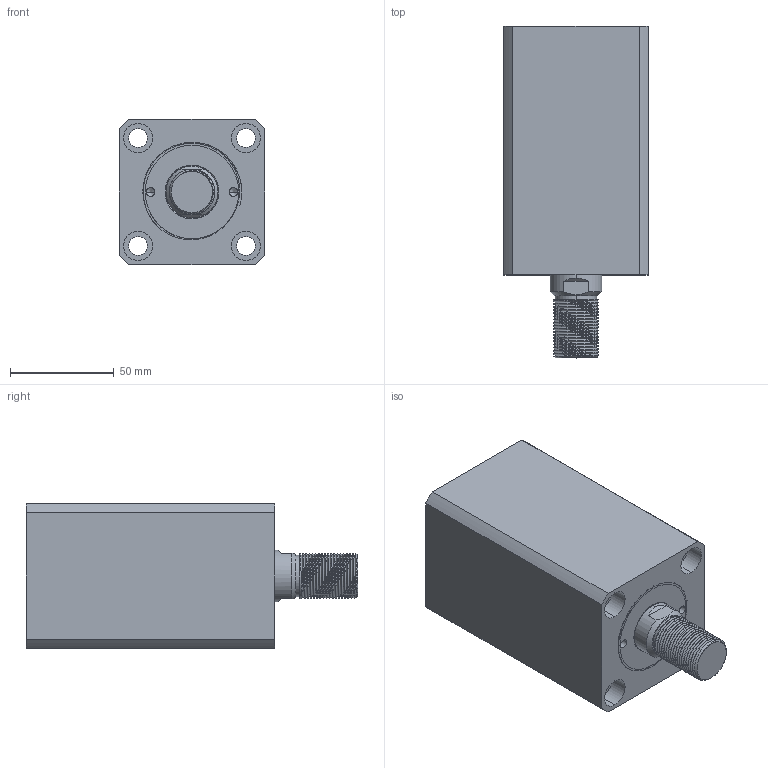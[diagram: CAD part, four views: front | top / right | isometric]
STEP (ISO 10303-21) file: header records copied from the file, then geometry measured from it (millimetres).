
FILE_DESCRIPTION (( 'STEP AP214' ), '1' );
FILE_NAME ('chtb-sdmb40x65w_asm.STEP', '2018-06-07T00:42:22', ( 'Windows' ), ( 'Microsoft' ), 'SwSTEP 2.0', 'SolidWorks 2015', '' );
FILE_SCHEMA (( 'AUTOMOTIVE_DESIGN' ));
Length unit declared in the file: millimetre
Products named in the file (4): CHTB-SD40QG; CHTB-SDMB40X65NBT; CHTB-SD40X65WHSG; chtb-sdmb40x65w_asm
Assembly tree (3 placements, depth 2):
  chtb-sdmb40x65w_asm
    CHTB-SD40X65WHSG
    CHTB-SDMB40X65NBT
    CHTB-SD40QG
Bounding box: 70 x 160 x 70 mm (x, y, z)
Volume: 505140.2 mm3; surface area: 101064.6 mm2
Topology: 3 solids, 4 shells, 201 faces, 539 edges, 359 vertices
Faces by surface type: cylinder 122, plane 38, bspline 16, torus 14, cone 11
Entity records: 13455 total; most frequent: CARTESIAN_POINT 8586, ORIENTED_EDGE 1066, DIRECTION 904, EDGE_CURVE 533, AXIS2_PLACEMENT_3D 374, VERTEX_POINT 359, EDGE_LOOP 238, ADVANCED_FACE 201
